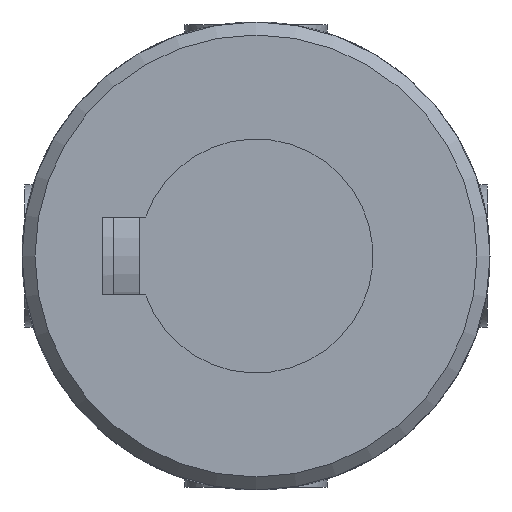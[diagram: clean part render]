
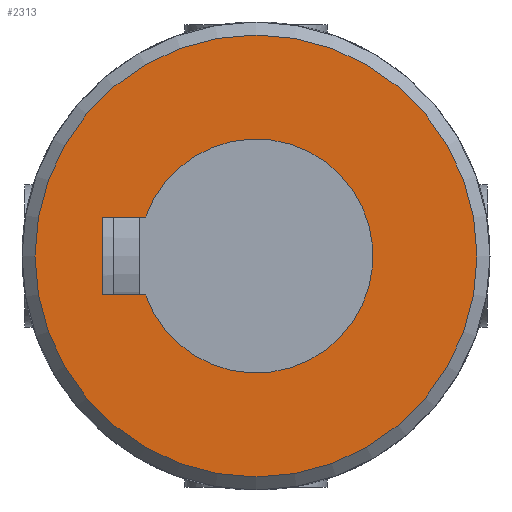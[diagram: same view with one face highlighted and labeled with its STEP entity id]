
A CAD part, front view. The second image highlights one B-rep face of the part: STEP entity #2313.
In plain terms, the highlighted planar face has unit normal (0, -1, 0).
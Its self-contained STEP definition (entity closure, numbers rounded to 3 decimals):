
#123=LINE('',#4197,#192);
#127=LINE('',#4224,#196);
#129=LINE('',#4232,#198);
#192=VECTOR('',#2981,3.315);
#196=VECTOR('',#2993,6.);
#198=VECTOR('',#2997,3.315);
#260=PLANE('',#2538);
#489=FACE_BOUND('',#775,.T.);
#592=FACE_OUTER_BOUND('',#774,.T.);
#774=EDGE_LOOP('',(#1933));
#775=EDGE_LOOP('',(#1934,#1935,#1936,#1937));
#918=CIRCLE('',#2525,9.);
#924=CIRCLE('',#2536,17.);
#1096=VERTEX_POINT('',#4194);
#1097=VERTEX_POINT('',#4196);
#1100=VERTEX_POINT('',#4206);
#1102=VERTEX_POINT('',#4222);
#1111=VERTEX_POINT('',#4309);
#1378=EDGE_CURVE('',#1097,#1096,#123,.T.);
#1382=EDGE_CURVE('',#1100,#1097,#918,.T.);
#1386=EDGE_CURVE('',#1096,#1102,#127,.T.);
#1389=EDGE_CURVE('',#1102,#1100,#129,.T.);
#1399=EDGE_CURVE('',#1111,#1111,#924,.T.);
#1933=ORIENTED_EDGE('',*,*,#1399,.F.);
#1934=ORIENTED_EDGE('',*,*,#1378,.T.);
#1935=ORIENTED_EDGE('',*,*,#1386,.T.);
#1936=ORIENTED_EDGE('',*,*,#1389,.T.);
#1937=ORIENTED_EDGE('',*,*,#1382,.T.);
#2313=ADVANCED_FACE('',(#592,#489),#260,.F.);
#2525=AXIS2_PLACEMENT_3D('',#4207,#2987,#2988);
#2536=AXIS2_PLACEMENT_3D('',#4310,#3014,#3015);
#2538=AXIS2_PLACEMENT_3D('',#4534,#3022,#3023);
#2981=DIRECTION('',(0.,0.,-1.));
#2987=DIRECTION('center_axis',(0.,1.,0.));
#2988=DIRECTION('ref_axis',(0.333,0.,-0.943));
#2993=DIRECTION('',(-1.,0.,0.));
#2997=DIRECTION('',(0.,0.,1.));
#3014=DIRECTION('center_axis',(0.,1.,0.));
#3015=DIRECTION('ref_axis',(1.,0.,0.));
#3022=DIRECTION('center_axis',(0.,1.,0.));
#3023=DIRECTION('ref_axis',(0.,0.,1.));
#4194=CARTESIAN_POINT('',(3.,-45.5,-11.8));
#4196=CARTESIAN_POINT('',(3.,-45.5,-8.485));
#4197=CARTESIAN_POINT('',(3.,-45.5,-4.243));
#4206=CARTESIAN_POINT('',(-3.,-45.5,-8.485));
#4207=CARTESIAN_POINT('Origin',(0.,-45.5,0.));
#4222=CARTESIAN_POINT('',(-3.,-45.5,-11.8));
#4224=CARTESIAN_POINT('',(1.5,-45.5,-11.8));
#4232=CARTESIAN_POINT('',(-3.,-45.5,-5.9));
#4309=CARTESIAN_POINT('',(-17.,-45.5,0.));
#4310=CARTESIAN_POINT('Origin',(0.,-45.5,0.));
#4534=CARTESIAN_POINT('Origin',(0.,-45.5,0.));
